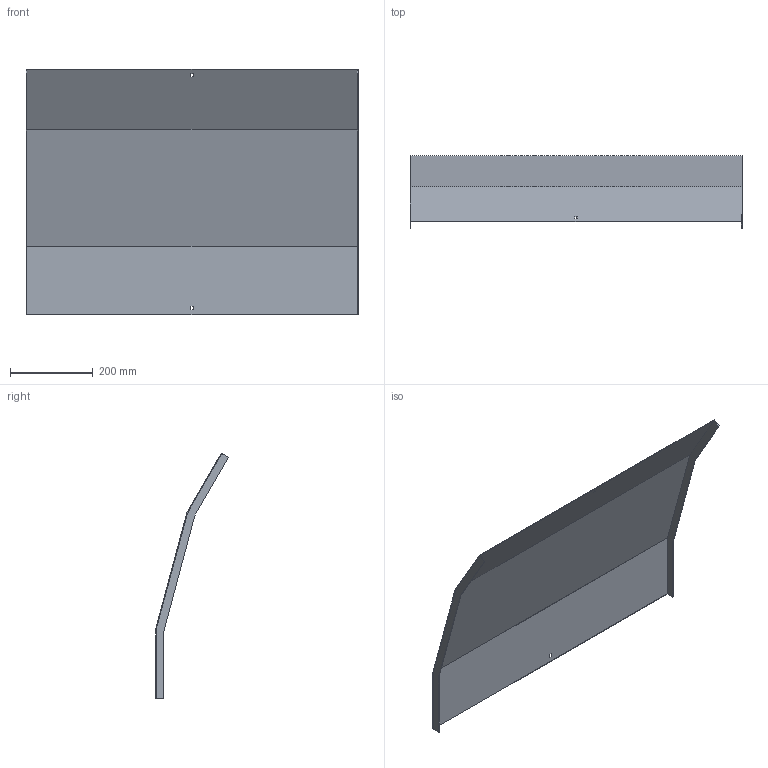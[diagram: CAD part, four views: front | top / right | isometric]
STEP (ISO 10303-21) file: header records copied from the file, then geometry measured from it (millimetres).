
FILE_DESCRIPTION (( 'STEP AP214' ), '1' );
FILE_NAME ('35N5J800.step', '2025-02-21T10:29:55', ( '' ), ( '' ), 'SwSTEP 2.0', 'SolidWorks 2023', '' );
FILE_SCHEMA (( 'AUTOMOTIVE_DESIGN' ));
Length unit declared in the file: millimetre
Products named in the file (1): 35N5J800
Bounding box: 803 x 176.54 x 594.21 mm (x, y, z)
Volume: 788465.2 mm3; surface area: 1055749.1 mm2
Topology: 1 solids, 1 shells, 26 faces, 72 edges, 48 vertices
Faces by surface type: plane 26
Entity records: 847 total; most frequent: CARTESIAN_POINT 147, ORIENTED_EDGE 144, DIRECTION 126, LINE 72, EDGE_CURVE 72, VECTOR 72, VERTEX_POINT 48, EDGE_LOOP 30
